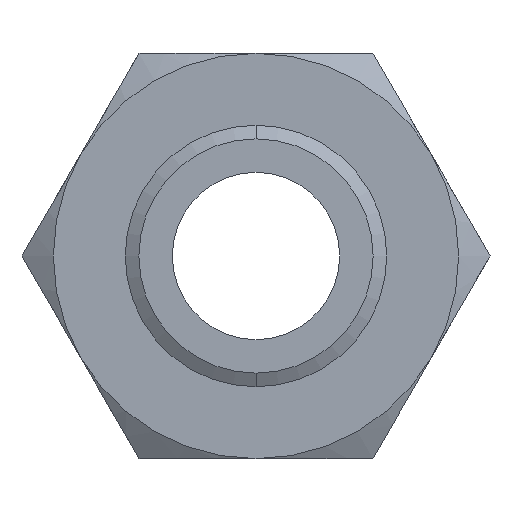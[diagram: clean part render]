
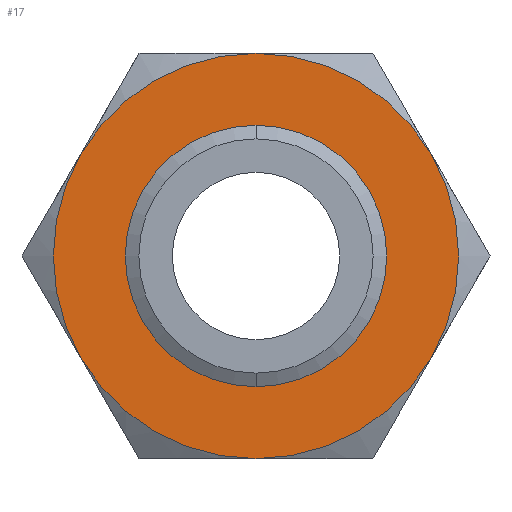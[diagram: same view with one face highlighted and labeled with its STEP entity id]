
A CAD part, front view. The second image highlights one B-rep face of the part: STEP entity #17.
In plain terms, the highlighted planar face has unit normal (0, -1, 0).
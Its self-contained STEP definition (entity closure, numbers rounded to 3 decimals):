
#6 = EDGE_CURVE ( 'NONE', #2468, #2471, #682, .T. ) ;
#16 = EDGE_CURVE ( 'NONE', #2471, #2469, #670, .T. ) ;
#17 = ADVANCED_FACE ( 'NONE', ( #665, #664 ), #663, .F. ) ;
#18 = ORIENTED_EDGE ( 'NONE', *, *, #16, .F. ) ;
#27 = EDGE_LOOP ( 'NONE', ( #18, #2467, #2395, #2394, #2419, #2362 ) ) ;
#159 = VERTEX_POINT ( 'NONE', #955 ) ;
#189 = VERTEX_POINT ( 'NONE', #981 ) ;
#197 = EDGE_CURVE ( 'NONE', #159, #189, #1027, .T. ) ;
#659 = DIRECTION ( 'NONE',  ( 0., 0., 1. ) ) ;
#660 = DIRECTION ( 'NONE',  ( 0., 1., 0. ) ) ;
#661 = CARTESIAN_POINT ( 'NONE',  ( 44.745, 0., -77.5 ) ) ;
#662 = AXIS2_PLACEMENT_3D ( 'NONE', #661, #660, #659 ) ;
#663 = PLANE ( 'NONE',  #662 ) ;
#664 = FACE_BOUND ( 'NONE', #2410, .T. ) ;
#665 = FACE_OUTER_BOUND ( 'NONE', #27, .T. ) ;
#666 = DIRECTION ( 'NONE',  ( 0., 0., 1. ) ) ;
#667 = DIRECTION ( 'NONE',  ( 0., 1., 0. ) ) ;
#668 = CARTESIAN_POINT ( 'NONE',  ( 0., 0., 0. ) ) ;
#669 = AXIS2_PLACEMENT_3D ( 'NONE', #668, #667, #666 ) ;
#670 = CIRCLE ( 'NONE', #669, 77.5 ) ;
#678 = DIRECTION ( 'NONE',  ( 0., 0., 1. ) ) ;
#679 = DIRECTION ( 'NONE',  ( 0., 1., 0. ) ) ;
#680 = CARTESIAN_POINT ( 'NONE',  ( 0., 0., 0. ) ) ;
#681 = AXIS2_PLACEMENT_3D ( 'NONE', #680, #679, #678 ) ;
#682 = CIRCLE ( 'NONE', #681, 77.5 ) ;
#955 = CARTESIAN_POINT ( 'NONE',  ( 0., 0., -44.804 ) ) ;
#981 = CARTESIAN_POINT ( 'NONE',  ( 0., 0., 44.804 ) ) ;
#1023 = DIRECTION ( 'NONE',  ( 0., 0., -1. ) ) ;
#1024 = DIRECTION ( 'NONE',  ( 0., -1., 0. ) ) ;
#1025 = CARTESIAN_POINT ( 'NONE',  ( 0., 0., 0. ) ) ;
#1026 = AXIS2_PLACEMENT_3D ( 'NONE', #1025, #1024, #1023 ) ;
#1027 = CIRCLE ( 'NONE', #1026, 44.804 ) ;
#2045 = CARTESIAN_POINT ( 'NONE',  ( 67.117, 0., -38.75 ) ) ;
#2057 = CARTESIAN_POINT ( 'NONE',  ( 0., 0., -77.5 ) ) ;
#2101 = DIRECTION ( 'NONE',  ( 0., 0., 1. ) ) ;
#2102 = DIRECTION ( 'NONE',  ( 0., 1., 0. ) ) ;
#2103 = CARTESIAN_POINT ( 'NONE',  ( 0., 0., 0. ) ) ;
#2104 = AXIS2_PLACEMENT_3D ( 'NONE', #2103, #2102, #2101 ) ;
#2105 = CIRCLE ( 'NONE', #2104, 77.5 ) ;
#2106 = DIRECTION ( 'NONE',  ( 0., 0., 1. ) ) ;
#2107 = DIRECTION ( 'NONE',  ( 0., 1., 0. ) ) ;
#2108 = CARTESIAN_POINT ( 'NONE',  ( 0., 0., 0. ) ) ;
#2109 = AXIS2_PLACEMENT_3D ( 'NONE', #2108, #2107, #2106 ) ;
#2110 = CIRCLE ( 'NONE', #2109, 77.5 ) ;
#2112 = CARTESIAN_POINT ( 'NONE',  ( -67.117, 0., -38.75 ) ) ;
#2135 = DIRECTION ( 'NONE',  ( 0., 0., 1. ) ) ;
#2136 = DIRECTION ( 'NONE',  ( 0., 1., 0. ) ) ;
#2137 = CARTESIAN_POINT ( 'NONE',  ( 0., 0., 0. ) ) ;
#2138 = AXIS2_PLACEMENT_3D ( 'NONE', #2137, #2136, #2135 ) ;
#2139 = CIRCLE ( 'NONE', #2138, 77.5 ) ;
#2140 = DIRECTION ( 'NONE',  ( 0., 0., -1. ) ) ;
#2141 = DIRECTION ( 'NONE',  ( 0., -1., 0. ) ) ;
#2142 = CARTESIAN_POINT ( 'NONE',  ( 0., 0., 0. ) ) ;
#2143 = AXIS2_PLACEMENT_3D ( 'NONE', #2142, #2141, #2140 ) ;
#2144 = CIRCLE ( 'NONE', #2143, 44.804 ) ;
#2176 = DIRECTION ( 'NONE',  ( 0., 0., 1. ) ) ;
#2177 = DIRECTION ( 'NONE',  ( 0., 1., 0. ) ) ;
#2178 = CARTESIAN_POINT ( 'NONE',  ( 0., 0., 0. ) ) ;
#2179 = AXIS2_PLACEMENT_3D ( 'NONE', #2178, #2177, #2176 ) ;
#2180 = CIRCLE ( 'NONE', #2179, 77.5 ) ;
#2228 = CARTESIAN_POINT ( 'NONE',  ( 0., 0., 77.5 ) ) ;
#2230 = CARTESIAN_POINT ( 'NONE',  ( 67.117, 0., 38.75 ) ) ;
#2236 = CARTESIAN_POINT ( 'NONE',  ( -67.117, 0., 38.75 ) ) ;
#2358 = VERTEX_POINT ( 'NONE', #2057 ) ;
#2362 = ORIENTED_EDGE ( 'NONE', *, *, #2409, .F. ) ;
#2364 = VERTEX_POINT ( 'NONE', #2045 ) ;
#2394 = ORIENTED_EDGE ( 'NONE', *, *, #2400, .F. ) ;
#2395 = ORIENTED_EDGE ( 'NONE', *, *, #2398, .F. ) ;
#2396 = VERTEX_POINT ( 'NONE', #2112 ) ;
#2398 = EDGE_CURVE ( 'NONE', #2396, #2468, #2110, .T. ) ;
#2400 = EDGE_CURVE ( 'NONE', #2358, #2396, #2105, .T. ) ;
#2408 = EDGE_CURVE ( 'NONE', #189, #159, #2144, .T. ) ;
#2409 = EDGE_CURVE ( 'NONE', #2469, #2364, #2139, .T. ) ;
#2410 = EDGE_LOOP ( 'NONE', ( #2411, #2412 ) ) ;
#2411 = ORIENTED_EDGE ( 'NONE', *, *, #197, .F. ) ;
#2412 = ORIENTED_EDGE ( 'NONE', *, *, #2408, .F. ) ;
#2419 = ORIENTED_EDGE ( 'NONE', *, *, #2423, .F. ) ;
#2423 = EDGE_CURVE ( 'NONE', #2364, #2358, #2180, .T. ) ;
#2467 = ORIENTED_EDGE ( 'NONE', *, *, #6, .F. ) ;
#2468 = VERTEX_POINT ( 'NONE', #2236 ) ;
#2469 = VERTEX_POINT ( 'NONE', #2230 ) ;
#2471 = VERTEX_POINT ( 'NONE', #2228 ) ;
